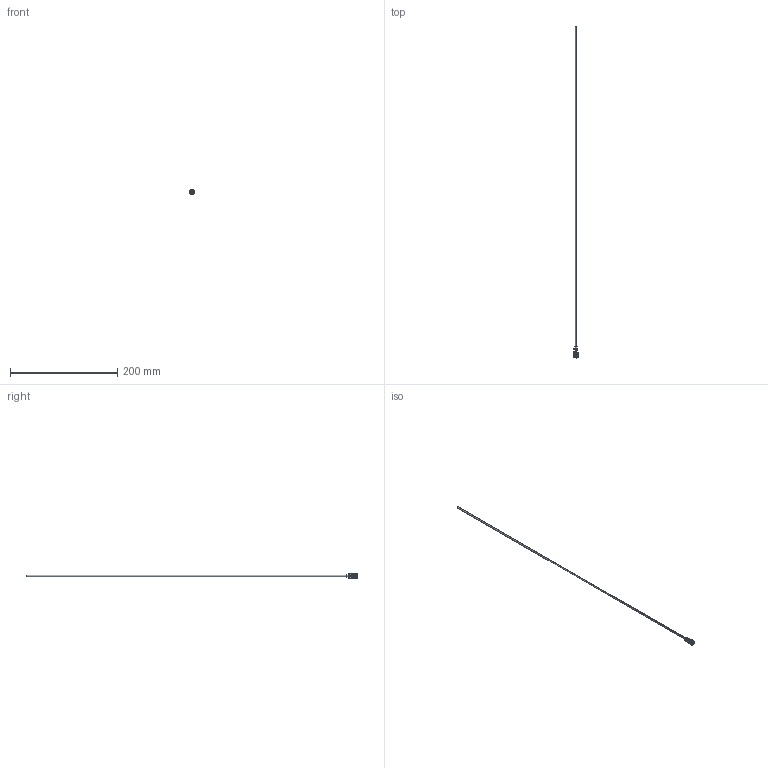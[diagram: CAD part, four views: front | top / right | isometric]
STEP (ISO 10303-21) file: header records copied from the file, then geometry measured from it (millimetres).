
FILE_DESCRIPTION (( 'STEP AP203' ), '1' );
FILE_NAME ('RF-8Fx600-3.STEP', '2015-11-25T08:51:06', ( 'Balzi' ), ( '' ), 'SwSTEP 2.0', 'SolidWorks 2015', '' );
FILE_SCHEMA (( 'CONFIG_CONTROL_DESIGN' ));
Length unit declared in the file: millimetre
Products named in the file (1): RF-8Fx600-3
Bounding box: 9 x 618 x 9 mm (x, y, z)
Volume: 1940.4 mm3; surface area: 11187.9 mm2
Topology: 1 solids, 1 shells, 77 faces, 176 edges, 108 vertices
Faces by surface type: cylinder 28, plane 25, torus 12, cone 12
Entity records: 2268 total; most frequent: DIRECTION 419, CARTESIAN_POINT 381, ORIENTED_EDGE 352, EDGE_CURVE 176, AXIS2_PLACEMENT_3D 170, VERTEX_POINT 108, CIRCLE 92, EDGE_LOOP 86
